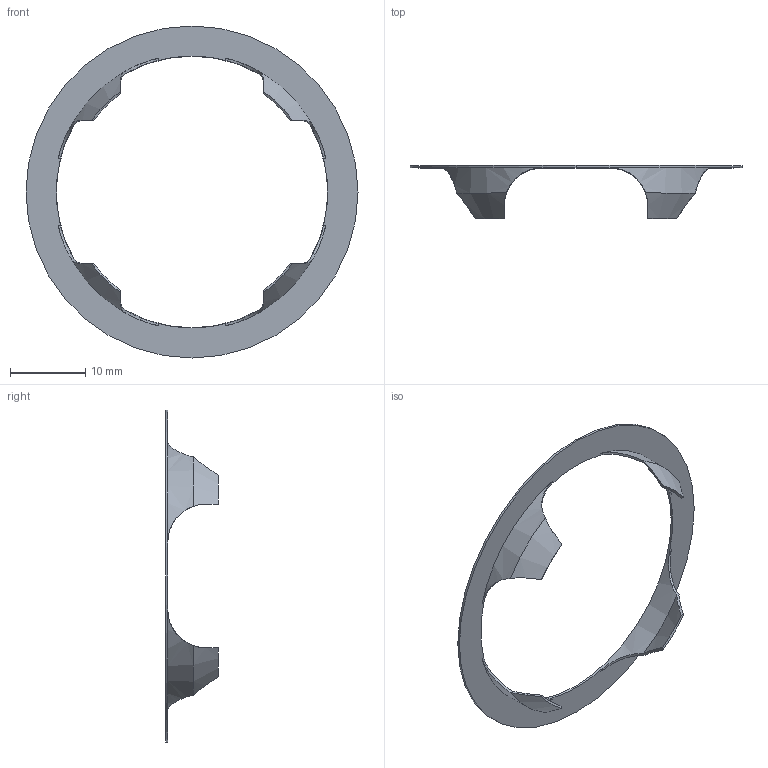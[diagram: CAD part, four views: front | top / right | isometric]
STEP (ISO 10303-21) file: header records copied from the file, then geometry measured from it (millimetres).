
FILE_DESCRIPTION (( 'STEP AP214' ), '1' );
FILE_NAME ('509.3-44-A.step', '2023-07-06T13:20:28', ( '' ), ( '' ), 'SwSTEP 2.0', 'SolidWorks 2022', '' );
FILE_SCHEMA (( 'AUTOMOTIVE_DESIGN' ));
Length unit declared in the file: millimetre
Products named in the file (1): 509.3-44-A
Bounding box: 44 x 7 x 44 mm (x, y, z)
Volume: 230.8 mm3; surface area: 1624.4 mm2
Topology: 1 solids, 1 shells, 38 faces, 108 edges, 72 vertices
Faces by surface type: cylinder 16, cone 12, plane 10
Entity records: 1540 total; most frequent: CARTESIAN_POINT 589, ORIENTED_EDGE 216, DIRECTION 162, EDGE_CURVE 108, VERTEX_POINT 72, AXIS2_PLACEMENT_3D 71, B_SPLINE_CURVE_WITH_KNOTS 56, EDGE_LOOP 40
